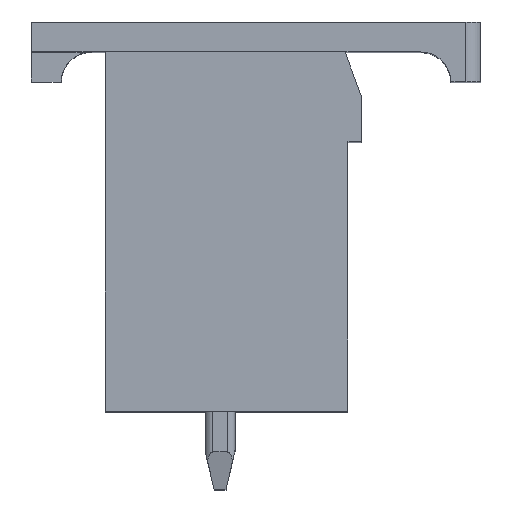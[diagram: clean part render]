
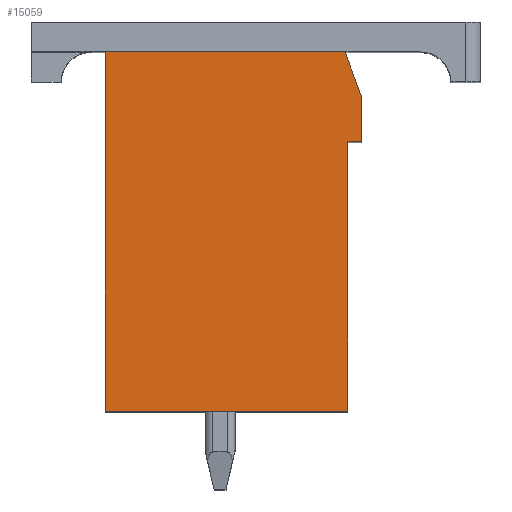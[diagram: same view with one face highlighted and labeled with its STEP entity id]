
A CAD part, top view. The second image highlights one B-rep face of the part: STEP entity #15059.
In plain terms, the highlighted planar face has unit normal (0, 0, 1).
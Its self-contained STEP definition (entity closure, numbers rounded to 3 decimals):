
#2379=DIRECTION('',(-1.,0.,0.));
#2380=VECTOR('',#2379,8.1);
#2381=CARTESIAN_POINT('',(8.1,2.6,-4.79));
#2382=LINE('',#2381,#2380);
#3473=DIRECTION('',(0.,-1.,0.));
#3474=VECTOR('',#3473,1.5);
#3475=CARTESIAN_POINT('',(8.55,13.1,-4.79));
#3476=LINE('',#3475,#3474);
#3481=DIRECTION('',(-1.,0.,0.));
#3482=VECTOR('',#3481,0.45);
#3483=CARTESIAN_POINT('',(8.55,11.6,-4.79));
#3484=LINE('',#3483,#3482);
#3489=DIRECTION('',(0.,-1.,0.));
#3490=VECTOR('',#3489,9.);
#3491=CARTESIAN_POINT('',(8.1,11.6,-4.79));
#3492=LINE('',#3491,#3490);
#3497=DIRECTION('',(-0.344,0.939,0.));
#3498=VECTOR('',#3497,1.598);
#3499=CARTESIAN_POINT('',(8.55,13.1,-4.79));
#3500=LINE('',#3499,#3498);
#3501=DIRECTION('',(0.,-1.,0.));
#3502=VECTOR('',#3501,12.);
#3503=CARTESIAN_POINT('',(0.,14.6,-4.79));
#3504=LINE('',#3503,#3502);
#3505=DIRECTION('',(-1.,0.,0.));
#3506=VECTOR('',#3505,8.);
#3507=CARTESIAN_POINT('',(8.,14.6,-4.79));
#3508=LINE('',#3507,#3506);
#9742=CARTESIAN_POINT('',(8.,14.6,-4.79));
#9743=CARTESIAN_POINT('',(0.,14.6,-4.79));
#9744=VERTEX_POINT('',#9742);
#9745=VERTEX_POINT('',#9743);
#9750=CARTESIAN_POINT('',(0.,2.6,-4.79));
#9751=VERTEX_POINT('',#9750);
#9788=CARTESIAN_POINT('',(8.55,13.1,-4.79));
#9789=CARTESIAN_POINT('',(8.55,11.6,-4.79));
#9790=VERTEX_POINT('',#9788);
#9791=VERTEX_POINT('',#9789);
#9792=CARTESIAN_POINT('',(8.1,11.6,-4.79));
#9793=VERTEX_POINT('',#9792);
#9794=CARTESIAN_POINT('',(8.1,2.6,-4.79));
#9795=VERTEX_POINT('',#9794);
#15044=CARTESIAN_POINT('',(4.275,8.6,-4.79));
#15045=DIRECTION('',(0.,0.,1.));
#15046=DIRECTION('',(1.,0.,0.));
#15047=AXIS2_PLACEMENT_3D('',#15044,#15045,#15046);
#15048=PLANE('',#15047);
#15050=ORIENTED_EDGE('',*,*,#15049,.F.);
#15051=ORIENTED_EDGE('',*,*,#15000,.T.);
#15052=ORIENTED_EDGE('',*,*,#15022,.T.);
#15053=ORIENTED_EDGE('',*,*,#15036,.T.);
#15054=ORIENTED_EDGE('',*,*,#13614,.T.);
#15055=ORIENTED_EDGE('',*,*,#13368,.F.);
#15056=ORIENTED_EDGE('',*,*,#12120,.F.);
#15057=EDGE_LOOP('',(#15050,#15051,#15052,#15053,#15054,#15055,#15056));
#15058=FACE_OUTER_BOUND('',#15057,.F.);
#15059=ADVANCED_FACE('',(#15058),#15048,.T.);
#12120=EDGE_CURVE('',#9744,#9745,#3508,.T.);
#13368=EDGE_CURVE('',#9745,#9751,#3504,.T.);
#13614=EDGE_CURVE('',#9795,#9751,#2382,.T.);
#15000=EDGE_CURVE('',#9790,#9791,#3476,.T.);
#15022=EDGE_CURVE('',#9791,#9793,#3484,.T.);
#15036=EDGE_CURVE('',#9793,#9795,#3492,.T.);
#15049=EDGE_CURVE('',#9790,#9744,#3500,.T.);
